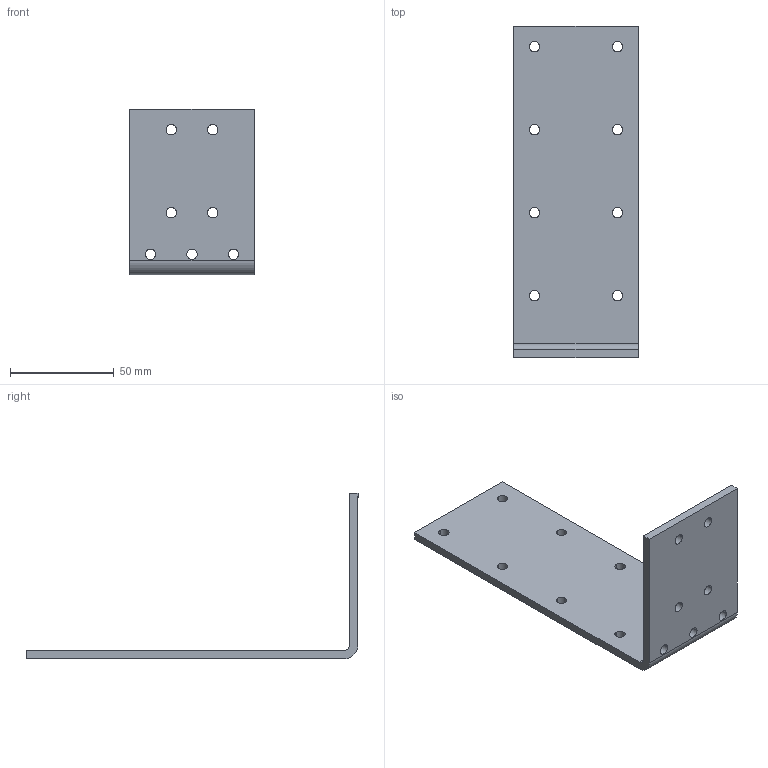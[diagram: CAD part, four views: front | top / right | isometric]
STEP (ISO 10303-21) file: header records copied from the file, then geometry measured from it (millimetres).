
FILE_DESCRIPTION (( 'STEP AP203' ), '1' );
FILE_NAME ('12116186.STEP', '2020-01-15T08:40:26', ( '' ), ( '' ), 'SwSTEP 2.0', 'SolidWorks 2013', '' );
FILE_SCHEMA (( 'CONFIG_CONTROL_DESIGN' ));
Length unit declared in the file: millimetre
Products named in the file (1): 12116186
Bounding box: 60 x 160 x 80 mm (x, y, z)
Volume: 54946.9 mm3; surface area: 30766.7 mm2
Topology: 1 solids, 1 shells, 40 faces, 114 edges, 76 vertices
Faces by surface type: cylinder 32, plane 8
Entity records: 1479 total; most frequent: DIRECTION 260, CARTESIAN_POINT 231, ORIENTED_EDGE 228, EDGE_CURVE 114, AXIS2_PLACEMENT_3D 105, VERTEX_POINT 76, EDGE_LOOP 70, CIRCLE 64
